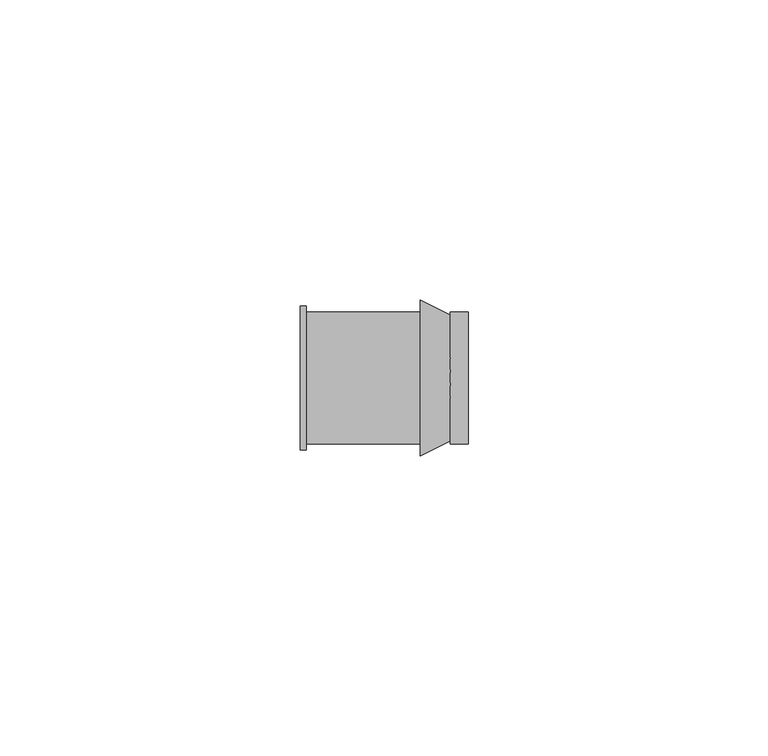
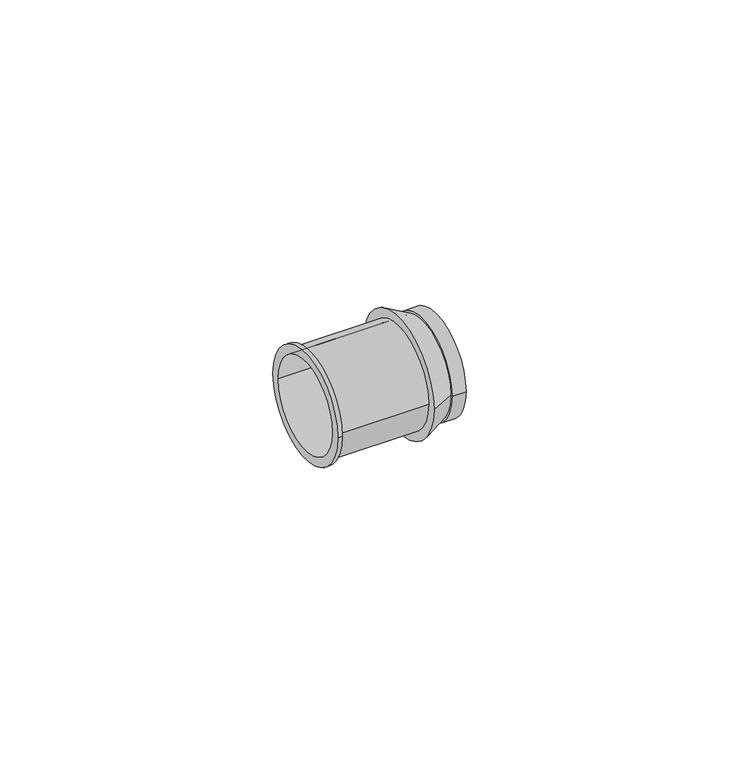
"""IFC4 building model written with IfcOpenShell, lengths in millimetres: pipe fitting geometry, SuperPipe_StopEnd_SPressPlus : SuperPipe_StopEnd_SPressPlus."""

from ifc_helpers import new_model, si_unit, point, frame, origin, origin_2d, place, context, project, spatial, polyline, circle_curve, trimmed, segment, composite_curve, outline, extrude, source, transform, mapped, element, save
from ifc_brep_helpers import plane_surface, cylinder_surface, revolved_surface, advanced_brep


def pipe_fitting_d80ff238(model_context):
    return source(origin(), model_context, "Body", "SolidModel", [
        advanced_brep(
        [(-25.0, -12.0, 0.0), (-25.0, 12.0, 0.0), (-25.0, -10.0, 0.0), (-25.0, 10.0, 0.0), (-5.0, -11.0, 0.0), (-5.0, 11.0, 0.0), (-5.0, -10.0, 0.0), (-5.0, 10.0, 0.0), (-24.0, -10.0, 0.0), (-24.0, 10.0, 0.0), (-24.0, 11.0, 0.0), (-24.0, -11.0, 0.0), (-24.0, -12.0, 0.0), (-24.0, 12.0, 0.0)],
        [
            (0, 1, circle_curve(frame((-25.0, 0.0, 0.0), z_axis=(-1.0, 0.0, 0.0), x_axis=(0.0, 1.0, 0.0)), 12.0)),
            (1, 0, circle_curve(frame((-25.0, 0.0, 0.0), z_axis=(-1.0, 0.0, 0.0), x_axis=(0.0, 1.0, 0.0)), 12.0)),
            (2, 3, circle_curve(frame((-25.0, 0.0, 0.0), z_axis=(1.0, 0.0, 0.0), x_axis=(0.0, 1.0, 0.0)), 10.0)),
            (3, 2, circle_curve(frame((-25.0, 0.0, 0.0), z_axis=(1.0, 0.0, 0.0), x_axis=(0.0, 1.0, 0.0)), 10.0)),
            (4, 5, circle_curve(frame((-5.0, 0.0, 0.0), z_axis=(1.0, 0.0, 0.0), x_axis=(0.0, 1.0, 0.0)), 11.0)),
            (5, 4, circle_curve(frame((-5.0, 0.0, 0.0), z_axis=(1.0, 0.0, 0.0), x_axis=(0.0, 1.0, 0.0)), 11.0)),
            (6, 7, circle_curve(frame((-5.0, 0.0, 0.0), z_axis=(-1.0, 0.0, 0.0), x_axis=(0.0, 1.0, 0.0)), 10.0)),
            (7, 6, circle_curve(frame((-5.0, 0.0, 0.0), z_axis=(-1.0, 0.0, 0.0), x_axis=(0.0, 1.0, 0.0)), 10.0)),
            (2, 8),
            (8, 6),
            (7, 9),
            (9, 3),
            (5, 10),
            (10, 11, circle_curve(frame((-24.0, 0.0, 0.0), z_axis=(1.0, 0.0, 0.0), x_axis=(0.0, 1.0, 0.0)), 11.0)),
            (11, 4),
            (11, 10, circle_curve(frame((-24.0, 0.0, 0.0), z_axis=(1.0, 0.0, 0.0), x_axis=(0.0, 1.0, 0.0)), 11.0)),
            (12, 13, circle_curve(frame((-24.0, 0.0, 0.0), z_axis=(1.0, 0.0, 0.0), x_axis=(0.0, 1.0, 0.0)), 12.0)),
            (13, 12, circle_curve(frame((-24.0, 0.0, 0.0), z_axis=(1.0, 0.0, 0.0), x_axis=(0.0, 1.0, 0.0)), 12.0)),
            (0, 12),
            (13, 1),
        ],
        [
            plane_surface(frame((-25.0, 0.0, 0.0), z_axis=(-1.0, 0.0, 0.0), x_axis=(0.0, 0.0, 1.0))),
            plane_surface(frame((-5.0, 0.0, 0.0), z_axis=(1.0, 0.0, 0.0), x_axis=(0.0, 0.0, 1.0))),
            revolved_surface(polyline([(-5.0, 10.0, 0.0), (-25.0, 10.0, 0.0)]), (-25.0, 0.0, 0.0), (1.0, 0.0, 0.0)),
            cylinder_surface(frame((-25.0, 0.0, 0.0), z_axis=(-1.0, 0.0, 0.0), x_axis=(0.0, 1.0, 0.0)), 11.0),
            plane_surface(frame((-24.0, 0.0, 0.0), z_axis=(1.0, 0.0, 0.0), x_axis=(0.0, 0.0, 1.0))),
            cylinder_surface(frame((-25.0, 0.0, 0.0), z_axis=(-1.0, 0.0, 0.0), x_axis=(0.0, 1.0, 0.0)), 12.0),
        ],
        [
            (0, [[1, 2], [3, 4]]),
            (1, [[5, 6], [7, 8]]),
            (2, [[-3, 9, 10, -8, 11, 12]]),
            (2, [[-4, -12, -11, -7, -10, -9]]),
            (3, [[-6, 13, 14, 15]]),
            (3, [[-5, -15, 16, -13]]),
            (4, [[17, 18], [-14, -16]]),
            (5, [[-1, 19, -18, 20]]),
            (5, [[-2, -20, -17, -19]]),
        ],
    ),
        advanced_brep(
        [(0.0, -10.5, 0.0), (0.0, 10.5, 0.0), (0.0, 10.0, 0.0), (0.0, -10.0, 0.0), (-5.0, -13.0, 0.0), (-5.0, 13.0, 0.0), (-5.0, -10.0, 0.0), (-5.0, 10.0, 0.0)],
        [
            (0, 1, circle_curve(frame((0.0, 0.0, 0.0), z_axis=(1.0, 0.0, 0.0), x_axis=(0.0, -1.0, 0.0)), 10.5)),
            (1, 0, circle_curve(frame((0.0, 0.0, 0.0), z_axis=(1.0, 0.0, 0.0), x_axis=(0.0, 1.0, 0.0)), 10.5)),
            (2, 3, circle_curve(frame((0.0, 0.0, 0.0), z_axis=(-1.0, 0.0, 0.0), x_axis=(0.0, 1.0, 0.0)), 10.0)),
            (3, 2, circle_curve(frame((0.0, 0.0, 0.0), z_axis=(-1.0, 0.0, 0.0), x_axis=(0.0, 1.0, 0.0)), 10.0)),
            (4, 5, circle_curve(frame((-5.0, 0.0, 0.0), z_axis=(-1.0, 0.0, 0.0), x_axis=(0.0, 1.0, 0.0)), 13.0)),
            (5, 4, circle_curve(frame((-5.0, 0.0, 0.0), z_axis=(-1.0, 0.0, 0.0), x_axis=(0.0, -1.0, 0.0)), 13.0)),
            (6, 7, circle_curve(frame((-5.0, 0.0, 0.0), z_axis=(1.0, 0.0, 0.0), x_axis=(0.0, 1.0, 0.0)), 10.0)),
            (7, 6, circle_curve(frame((-5.0, 0.0, 0.0), z_axis=(1.0, 0.0, 0.0), x_axis=(0.0, 1.0, 0.0)), 10.0)),
            (0, 4),
            (5, 1),
            (2, 7),
            (6, 3),
        ],
        [
            plane_surface(frame((0.0, 0.0, 0.0), z_axis=(1.0, 0.0, 0.0), x_axis=(0.0, 0.0, -1.0))),
            plane_surface(frame((-5.0, 0.0, 0.0), z_axis=(-1.0, 0.0, 0.0), x_axis=(0.0, 0.0, -1.0))),
            revolved_surface(polyline([(0.0, -10.5, 0.0), (-5.0, -13.0, 0.0)]), (21.0, 0.0, 0.0), (-1.0, 0.0, 0.0)),
            revolved_surface(polyline([(0.0, 10.5, 0.0), (-5.0, 13.0, 0.0)]), (21.0, 0.0, 0.0), (-1.0, 0.0, 0.0)),
            revolved_surface(polyline([(0.0, 10.0, 0.0), (-5.0, 10.0, 0.0)]), (-5.0, 0.0, 0.0), (1.0, 0.0, 0.0)),
        ],
        [
            (0, [[1, 2], [3, 4]]),
            (1, [[5, 6], [7, 8]]),
            (2, [[-1, 9, -6, 10]]),
            (3, [[-2, -10, -5, -9]]),
            (4, [[11, -7, 12, -3]]),
            (4, [[-11, -4, -12, -8]]),
        ],
    ),
        extrude(outline(composite_curve([segment(trimmed(circle_curve(origin_2d(), 11.0), [point((-11.0, 0.0))], [point((11.0, 0.0))], False, "CARTESIAN"), True, "CONTINUOUS"), segment(trimmed(circle_curve(origin_2d(), 11.0), [point((11.0, 0.0))], [point((-11.0, 0.0))], False, "CARTESIAN"), True, "CONTINUOUS")], self_intersect=False)), frame((0.0, 0.0, 0.0), z_axis=(1.0, 0.0, 0.0), x_axis=(0.0, 1.0, 0.0)), (0.0, 0.0, 1.0), 3.0),
    ])


if __name__ == "__main__":
    model = new_model("IFC4")
    model_context = context("Model", 3, world=origin())
    ifc_project = project(units=[si_unit("LENGTHUNIT", "METRE", prefix="MILLI")], contexts=[model_context])
    site = spatial("IfcSite", under=ifc_project)
    building = spatial("IfcBuilding", under=site)
    placement = place(None, origin())
    pipe_fitting_shape = pipe_fitting_d80ff238(model_context)
    element("IfcPipeFitting", 1, ObjectType="SuperPipe_StopEnd_SPressPlus : SuperPipe_StopEnd_SPressPlus", at=placement, inside=building, context=model_context, shape_type="MappedRepresentation", body=[
        mapped(pipe_fitting_shape, transform((0.0, 0.0, 0.0), x_axis=(1.0, 0.0, 0.0), y_axis=(0.0, 1.0, 0.0), z_axis=(0.0, 0.0, 1.0))),
    ])
    save(model, "model.ifc")
